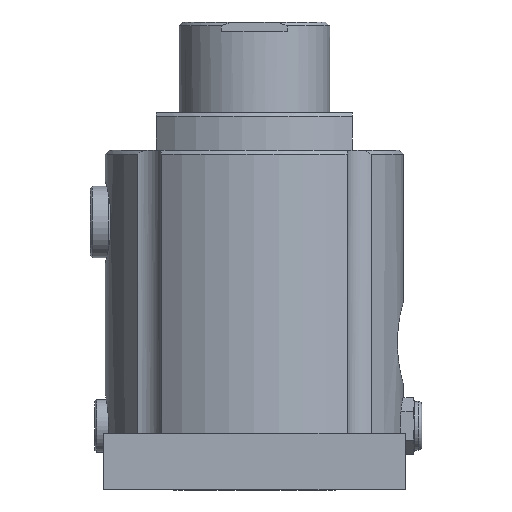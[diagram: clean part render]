
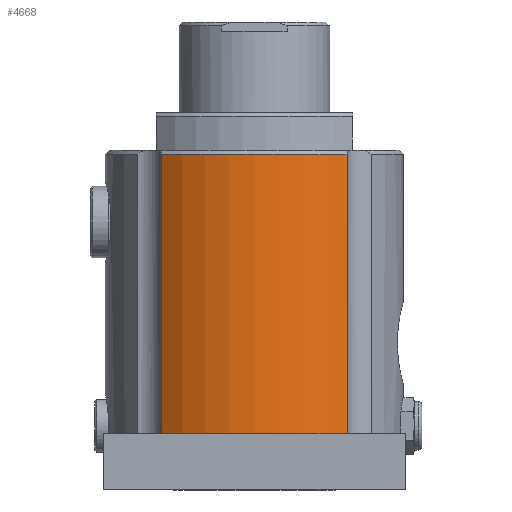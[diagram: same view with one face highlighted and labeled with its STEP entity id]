
A CAD part, front view. The second image highlights one B-rep face of the part: STEP entity #4668.
In plain terms, the highlighted cylindrical face has radius 39.5 mm (diameter 79 mm), a partial arc.
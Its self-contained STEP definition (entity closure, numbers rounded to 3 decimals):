
#394=LINE($,#7298,#559);
#397=LINE($,#7341,#562);
#559=VECTOR($,#5740,74.);
#562=VECTOR($,#5773,74.);
#1086=CYLINDRICAL_SURFACE($,#5098,39.5);
#1208=FACE_OUTER_BOUND($,#1537,.T.);
#1537=EDGE_LOOP($,(#3564,#3565,#3566,#3567));
#2097=CIRCLE($,#5049,39.5);
#2113=CIRCLE($,#5076,39.5);
#2385=VERTEX_POINT($,#7290);
#2386=VERTEX_POINT($,#7297);
#2396=VERTEX_POINT($,#7321);
#2399=VERTEX_POINT($,#7339);
#2838=EDGE_CURVE($,#2386,#2385,#394,.T.);
#2851=EDGE_CURVE($,#2396,#2385,#2097,.T.);
#2855=EDGE_CURVE($,#2396,#2399,#397,.T.);
#2893=EDGE_CURVE($,#2399,#2386,#2113,.T.);
#3564=ORIENTED_EDGE($,*,*,#2851,.F.);
#3565=ORIENTED_EDGE($,*,*,#2855,.T.);
#3566=ORIENTED_EDGE($,*,*,#2893,.T.);
#3567=ORIENTED_EDGE($,*,*,#2838,.T.);
#4668=ADVANCED_FACE($,(#1208),#1086,.T.);
#5049=AXIS2_PLACEMENT_3D($,#7328,#5766,#5767);
#5076=AXIS2_PLACEMENT_3D($,#7551,#5831,#5832);
#5098=AXIS2_PLACEMENT_3D($,#7599,#5887,#5888);
#5740=DIRECTION($,(0.,0.,1.));
#5766=DIRECTION('center_axis',(0.,0.,1.));
#5767=DIRECTION('ref_axis',(-1.,0.,0.));
#5773=DIRECTION($,(0.,0.,-1.));
#5831=DIRECTION('center_axis',(0.,0.,1.));
#5832=DIRECTION('ref_axis',(-1.,0.,0.));
#5887=DIRECTION('center_axis',(0.,0.,-1.));
#5888=DIRECTION('ref_axis',(-1.,0.,0.));
#7290=CARTESIAN_POINT('',(24.578,-30.922,89.));
#7297=CARTESIAN_POINT('',(24.578,-30.922,15.));
#7298=CARTESIAN_POINT($,(24.578,-30.922,15.));
#7321=CARTESIAN_POINT('',(-24.578,-30.922,89.));
#7328=CARTESIAN_POINT('Origin',(0.,0.,89.));
#7339=CARTESIAN_POINT('',(-24.578,-30.922,15.));
#7341=CARTESIAN_POINT($,(-24.578,-30.922,15.));
#7551=CARTESIAN_POINT('Origin',(0.,0.,15.));
#7599=CARTESIAN_POINT('Origin',(0.,0.,90.));
